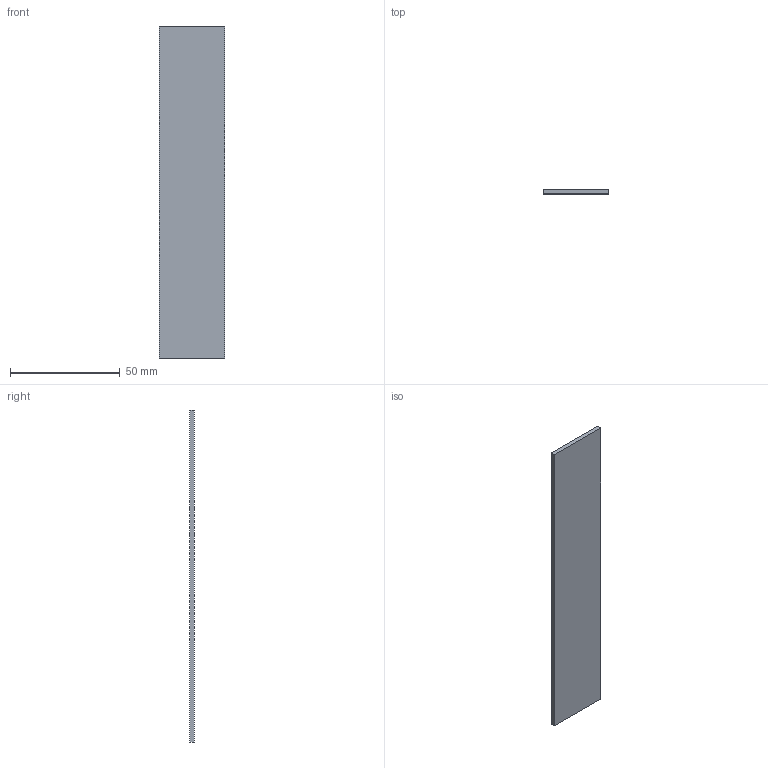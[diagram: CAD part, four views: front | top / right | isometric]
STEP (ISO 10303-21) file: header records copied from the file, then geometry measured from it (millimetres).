
FILE_DESCRIPTION (( 'STEP AP214' ), '1' );
FILE_NAME ('IDT2-00-200-1-X-24V-01 CLEAR PERSPEX.STEP', '2022-05-10T05:19:43', ( '' ), ( '' ), 'SwSTEP 2.0', 'SolidWorks 2021', '' );
FILE_SCHEMA (( 'AUTOMOTIVE_DESIGN' ));
Length unit declared in the file: millimetre
Products named in the file (1): IDT2-00-200-1-X-24V-01 CLEAR PERSPEX
Bounding box: 29.8 x 2 x 151 mm (x, y, z)
Volume: 8999.6 mm3; surface area: 9722.8 mm2
Topology: 1 solids, 1 shells, 6 faces, 12 edges, 8 vertices
Faces by surface type: plane 6
Entity records: 190 total; most frequent: CARTESIAN_POINT 27, DIRECTION 26, ORIENTED_EDGE 24, EDGE_CURVE 12, LINE 12, VECTOR 12, VERTEX_POINT 8, AXIS2_PLACEMENT_3D 7
